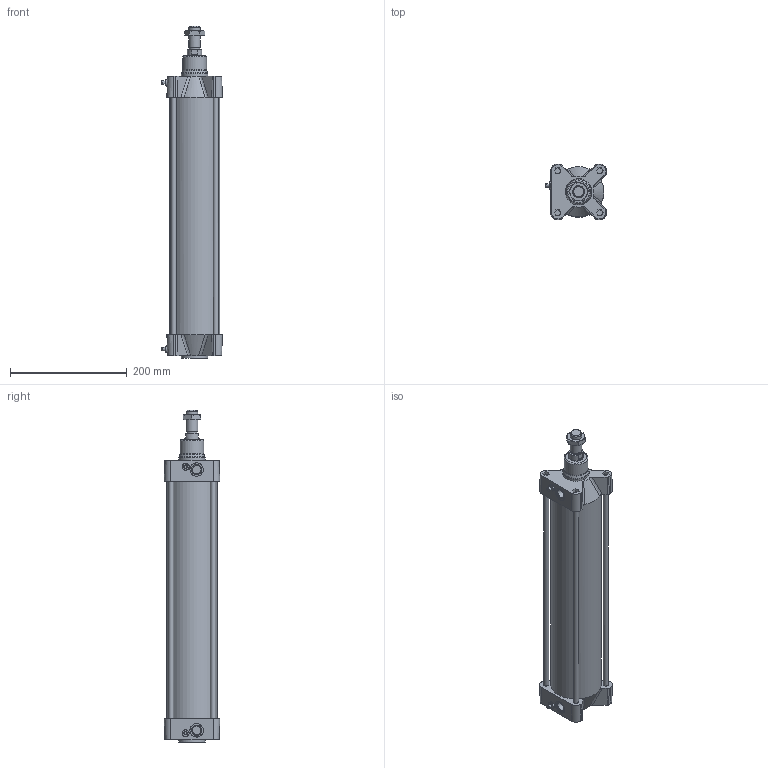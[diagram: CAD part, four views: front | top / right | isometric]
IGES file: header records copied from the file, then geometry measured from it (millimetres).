
Global section: file name: 1393_080_0350_01; native system: Autodesk Inventor 2014; preprocessor: unknown; author: A. Manieri; date: 20151130.150806; units: millimetre
Bounding box: 104 x 95 x 568 mm (x, y, z)
Volume: 1419328.7 mm3; surface area: 390496.7 mm2
Topology: 3 solids, 5 shells, 233 faces, 578 edges, 377 vertices
Faces by surface type: bspline 233
